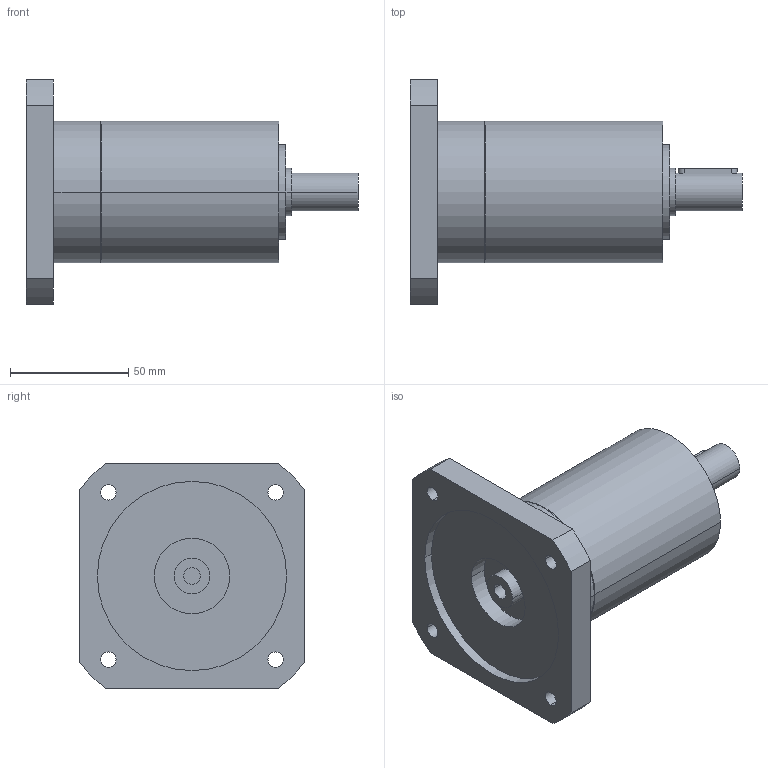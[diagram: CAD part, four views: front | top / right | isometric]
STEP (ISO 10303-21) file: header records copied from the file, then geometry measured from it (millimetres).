
FILE_DESCRIPTION(('CoCreate Modeling STEP Export'),'2;1');
FILE_NAME('GPR75_ig-9-12-16-20-24-30-36_16_B14_7_P07.stp','2014-08-25T16:05:16',(''),(''),'CoCreate Modeling STEP processor for AP214 (Solid Model)','CoCreate Modeling 16.00C 25-Feb-2009 (C) Parametric Technology GmbH','');
FILE_SCHEMA(('AUTOMOTIVE_DESIGN { 1 0 10303 214 1 1 1 1 }'));
Length unit declared in the file: millimetre
Products named in the file (2): GPR75_ig-9-12-16-20-24-30-36_16_B14_7_P07
Assembly tree (1 placements, depth 2):
  GPR75_ig-9-12-16-20-24-30-36_16_B14_7_P07
    GPR75_ig-9-12-16-20-24-30-36_16_B14_7_P07
Bounding box: 140.4 x 95 x 95 mm (x, y, z)
Volume: 353237.1 mm3; surface area: 45881.1 mm2
Topology: 1 solids, 1 shells, 70 faces, 188 edges, 132 vertices
Faces by surface type: cylinder 42, plane 22, cone 6
Entity records: 1939 total; most frequent: ORIENTED_EDGE 372, CARTESIAN_POINT 360, DIRECTION 262, EDGE_CURVE 186, VERTEX_POINT 132, AXIS2_PLACEMENT_3D 98, EDGE_LOOP 92, FACE_OUTER_BOUND 70
